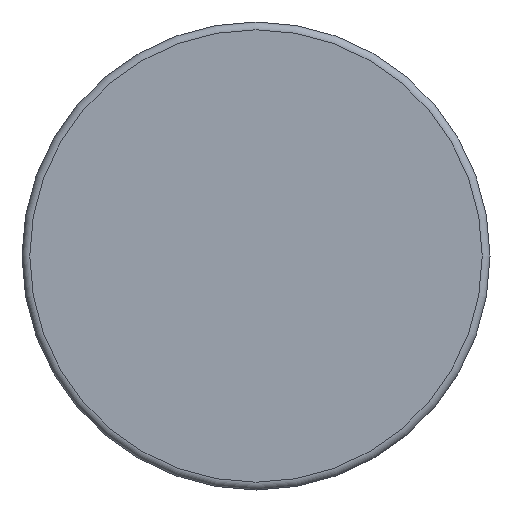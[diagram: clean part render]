
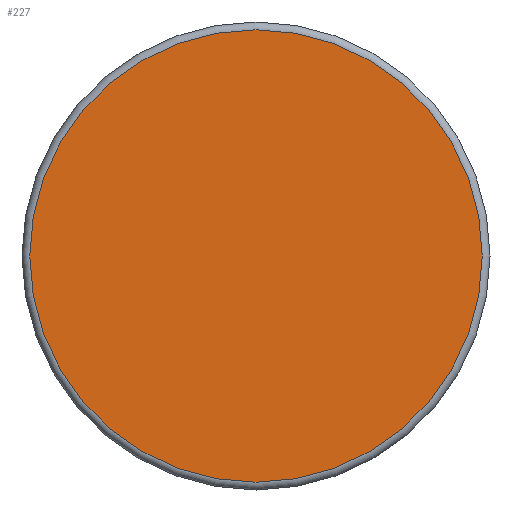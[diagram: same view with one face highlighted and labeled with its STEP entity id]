
A CAD part, front view. The second image highlights one B-rep face of the part: STEP entity #227.
In plain terms, the highlighted planar face has unit normal (0, -1, 0).
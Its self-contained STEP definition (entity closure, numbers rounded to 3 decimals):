
#227 = ADVANCED_FACE( '', ( #437 ), #438, .F. );
#437 = FACE_OUTER_BOUND( '', #637, .T. );
#438 = PLANE( '', #638 );
#637 = EDGE_LOOP( '', ( #1017 ) );
#638 = AXIS2_PLACEMENT_3D( '', #1018, #1019, #1020 );
#1017 = ORIENTED_EDGE( '', *, *, #1252, .T. );
#1018 = CARTESIAN_POINT( '', ( 29., 0., 0. ) );
#1019 = DIRECTION( '', ( 0., 1., 0. ) );
#1020 = DIRECTION( '', ( 0., 0., 1. ) );
#1252 = EDGE_CURVE( '', #1471, #1471, #1472, .T. );
#1471 = VERTEX_POINT( '', #1986 );
#1472 = CIRCLE( '', #1987, 29. );
#1986 = CARTESIAN_POINT( '', ( 0., 0., -29. ) );
#1987 = AXIS2_PLACEMENT_3D( '', #2135, #2136, #2137 );
#2135 = CARTESIAN_POINT( '', ( 0., 0., 0. ) );
#2136 = DIRECTION( '', ( 0., -1., 0. ) );
#2137 = DIRECTION( '', ( 0., 0., -1. ) );
